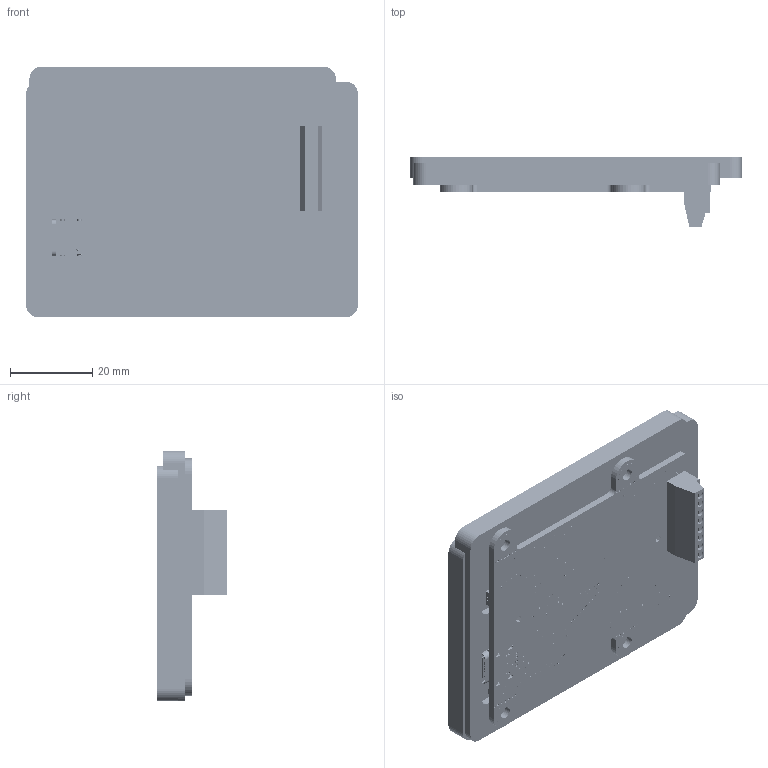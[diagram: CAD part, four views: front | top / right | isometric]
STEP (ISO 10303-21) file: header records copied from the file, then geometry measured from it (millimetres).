
FILE_DESCRIPTION (( 'STEP AP214' ), '1' );
FILE_NAME ('D128X64C.STEP', '2026-04-13T06:02:18', ( '' ), ( '' ), 'SwSTEP 2.0', 'SolidWorks 2008', '' );
FILE_SCHEMA (( 'AUTOMOTIVE_DESIGN' ));
Length unit declared in the file: millimetre
Products named in the file (40): C2-BOOST; C21; P1; R15; R7; R12; R5; R1; T1; REG2; support_ecran_3dprint; 83.1286.02504; R14; IC1; R20; sens1; R18; Part1^yoctoMaxiDisplayUsbCA2; CF-BOOST; D1; C12; C19; CPU1; I1; P3; R17; Ybutton; FLASH1; C11; C1; C15; USB1; R2-A; PCB; D128X64C; YLED; UG-2864ALBPG01_D8003458400, 0.0000000000000000000, -0.9999996376390557500; C20; C18
Assembly tree (72 placements, depth 2):
  D128X64C
    R1
    Part1^yoctoMaxiDisplayUsbCA2
    C1
    C20  x10
    IC1
    R18  x3
    R14  x7
    sens1
    R2-A
    P3
    UG-2864ALBPG01_D8003458400, 0.0000000000000000000, -0.9999996376390557500
    PCB
    CPU1
    C18  x2
    FLASH1
    R20  x4
    C19  x2
    C15  x2
    R7
    R17  x2
    Ybutton  x7
    83.1286.02504  x2
    support_ecran_3dprint
    I1
    C2-BOOST
    R15
    P1
    REG2  x2
    YLED
    C21  x2
    USB1
    Part1^yoctoMaxiDisplayUsbCA2
    T1
    R5
    CF-BOOST
    D1
    C12
    C11
    R12
Bounding box: 80.9 x 16.88 x 61.11 mm (x, y, z)
Volume: 43556.8 mm3; surface area: 52689.7 mm2
Topology: 103 solids, 104 shells, 11701 faces, 30799 edges, 20027 vertices
Faces by surface type: plane 7357, cylinder 3199, bspline 882, sphere 184, torus 55, cone 24
Entity records: 404192 total; most frequent: CARTESIAN_POINT 89127, ORIENTED_EDGE 47828, DIRECTION 44712, EDGE_CURVE 23914, LINE 17254, VECTOR 17254, VERTEX_POINT 15767, AXIS2_PLACEMENT_3D 13729
